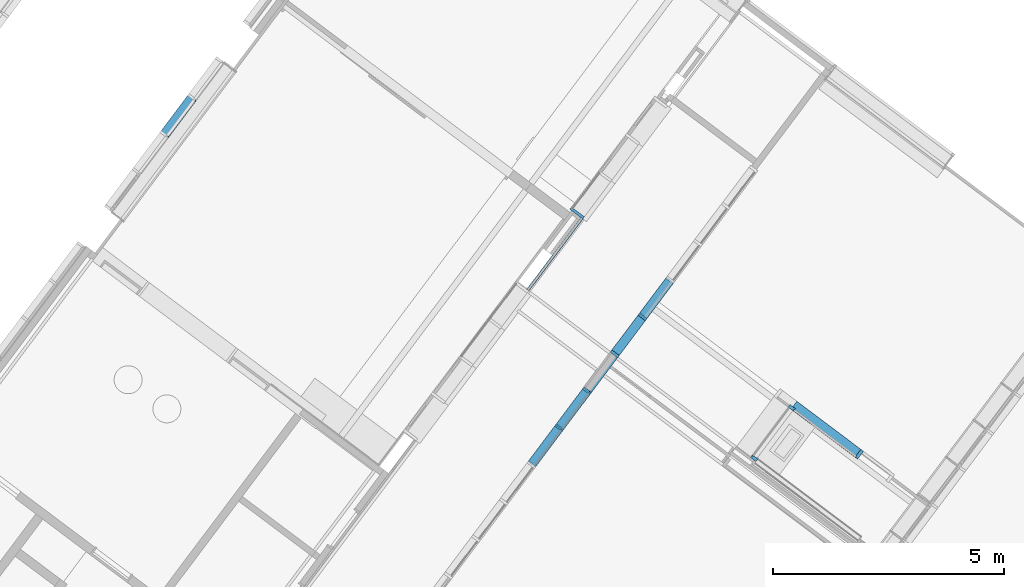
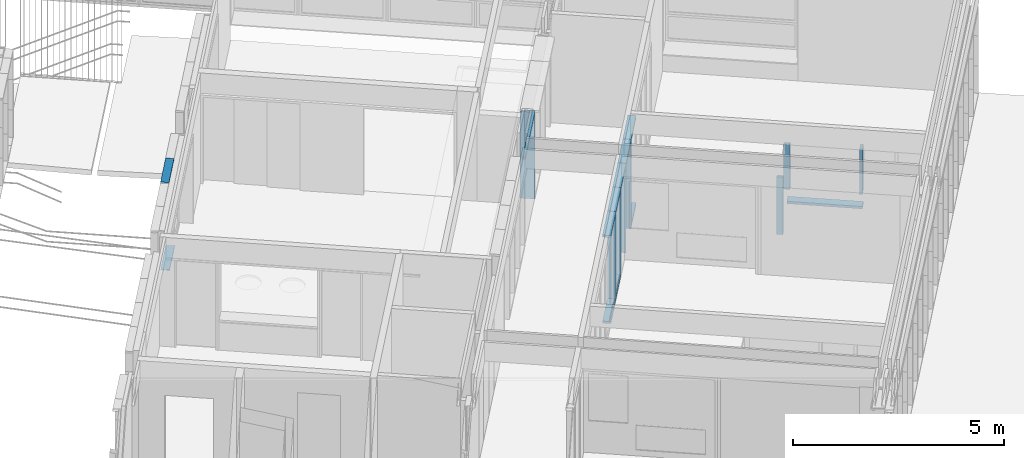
# One storey, part 28 of 243: 20 members, 6 elements without a shape of their own.
"""IFC2X3 building model written with IfcOpenShell, lengths in metres."""

from ifc_helpers import new_model, entity, si_unit, converted_unit, derived_unit, direction, frame, frame_2d, origin, place, context, subcontext, project, spatial, polyline, circle_curve, parameter, trimmed, segment, composite_curve, rectangle, outline, extrude, source, transform, mapped, material, type_object, type_shapes, element, aggregate, save


model = new_model("IFC2X3")

# Units and contexts
model_context = context("Model", 3, precision=1e-05, world=origin(), true_north=direction((6.123031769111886e-17, 1.0)))
body_context = subcontext(model_context, "Body", "Model", "MODEL_VIEW")
ifc_project = project(units=[si_unit("LENGTHUNIT", "METRE"), si_unit("AREAUNIT", "SQUARE_METRE"), si_unit("VOLUMEUNIT", "CUBIC_METRE"), converted_unit("PLANEANGLEUNIT", "DEGREE", entity("IfcRatioMeasure", 0.017453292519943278), si_unit("PLANEANGLEUNIT", "RADIAN"), dimensions=[0, 0, 0, 0, 0, 0, 0]), si_unit("MASSUNIT", "GRAM", prefix="KILO"), derived_unit("MASSDENSITYUNIT", [(si_unit("MASSUNIT", "GRAM", prefix="KILO"), 1), (si_unit("LENGTHUNIT", "METRE"), -3)]), derived_unit("IONCONCENTRATIONUNIT", [(si_unit("MASSUNIT", "GRAM", prefix="KILO"), 1), (si_unit("LENGTHUNIT", "METRE"), -3)]), derived_unit("MOMENTOFINERTIAUNIT", [(si_unit("LENGTHUNIT", "METRE"), 4)]), si_unit("TIMEUNIT", "SECOND"), si_unit("FREQUENCYUNIT", "HERTZ"), si_unit("THERMODYNAMICTEMPERATUREUNIT", "DEGREE_CELSIUS"), derived_unit("THERMALTRANSMITTANCEUNIT", [(si_unit("MASSUNIT", "GRAM", prefix="KILO"), 1), (si_unit("THERMODYNAMICTEMPERATUREUNIT", "KELVIN"), -1), (si_unit("TIMEUNIT", "SECOND"), -3)]), derived_unit("THERMALCONDUCTANCEUNIT", [(si_unit("MASSUNIT", "GRAM", prefix="KILO"), 1), (si_unit("THERMODYNAMICTEMPERATUREUNIT", "KELVIN"), -1), (si_unit("TIMEUNIT", "SECOND"), -3), (si_unit("LENGTHUNIT", "METRE"), 1)]), derived_unit("VOLUMETRICFLOWRATEUNIT", [(si_unit("LENGTHUNIT", "METRE"), 3), (si_unit("TIMEUNIT", "SECOND"), -1)]), derived_unit("MASSFLOWRATEUNIT", [(si_unit("MASSUNIT", "GRAM", prefix="KILO"), 1), (si_unit("TIMEUNIT", "SECOND"), -1)]), derived_unit("ROTATIONALFREQUENCYUNIT", [(si_unit("TIMEUNIT", "SECOND"), -1)]), si_unit("ELECTRICCURRENTUNIT", "AMPERE"), si_unit("ELECTRICVOLTAGEUNIT", "VOLT"), si_unit("POWERUNIT", "WATT"), si_unit("FORCEUNIT", "NEWTON", prefix="KILO"), si_unit("ILLUMINANCEUNIT", "LUX"), si_unit("LUMINOUSFLUXUNIT", "LUMEN"), si_unit("LUMINOUSINTENSITYUNIT", "CANDELA"), derived_unit("USERDEFINED", [(si_unit("MASSUNIT", "GRAM", prefix="KILO"), -1), (si_unit("LENGTHUNIT", "METRE"), -2), (si_unit("TIMEUNIT", "SECOND"), 3), (si_unit("LUMINOUSFLUXUNIT", "LUMEN"), 1)]), derived_unit("USERDEFINED", [(si_unit("MASSUNIT", "GRAM", prefix="KILO"), 1), (si_unit("TIMEUNIT", "SECOND"), -3), (si_unit("LENGTHUNIT", "METRE"), 3), (si_unit("ELECTRICCURRENTUNIT", "AMPERE"), -2)]), derived_unit("SOUNDPOWERUNIT", [(si_unit("MASSUNIT", "GRAM", prefix="KILO"), 1), (si_unit("TIMEUNIT", "SECOND"), -3), (si_unit("LENGTHUNIT", "METRE"), 2)]), derived_unit("SOUNDPRESSUREUNIT", [(si_unit("MASSUNIT", "GRAM", prefix="KILO"), 1), (si_unit("LENGTHUNIT", "METRE"), -1), (si_unit("TIMEUNIT", "SECOND"), -2)]), derived_unit("LINEARVELOCITYUNIT", [(si_unit("LENGTHUNIT", "METRE"), 1), (si_unit("TIMEUNIT", "SECOND"), -1)]), si_unit("PRESSUREUNIT", "PASCAL"), derived_unit("USERDEFINED", [(si_unit("MASSUNIT", "GRAM", prefix="KILO"), 1), (si_unit("LENGTHUNIT", "METRE"), -2), (si_unit("TIMEUNIT", "SECOND"), -2)]), derived_unit("LINEARFORCEUNIT", [(si_unit("MASSUNIT", "GRAM", prefix="KILO"), 1), (si_unit("TIMEUNIT", "SECOND"), -2)]), derived_unit("PLANARFORCEUNIT", [(si_unit("MASSUNIT", "GRAM", prefix="KILO"), 1), (si_unit("LENGTHUNIT", "METRE"), -1), (si_unit("TIMEUNIT", "SECOND"), -2)]), derived_unit("SPECIFICHEATCAPACITYUNIT", [(si_unit("THERMODYNAMICTEMPERATUREUNIT", "KELVIN"), -1), (si_unit("LENGTHUNIT", "METRE"), 2), (si_unit("TIMEUNIT", "SECOND"), -2)]), derived_unit("HEATINGVALUEUNIT", [(si_unit("LENGTHUNIT", "METRE"), 2), (si_unit("TIMEUNIT", "SECOND"), -2)]), derived_unit("VAPORPERMEABILITYUNIT", [(si_unit("LENGTHUNIT", "METRE"), -1), (si_unit("TIMEUNIT", "SECOND"), 1)]), derived_unit("DYNAMICVISCOSITYUNIT", [(si_unit("MASSUNIT", "GRAM", prefix="KILO"), 1), (si_unit("TIMEUNIT", "SECOND"), -1), (si_unit("LENGTHUNIT", "METRE"), -1)]), derived_unit("THERMALEXPANSIONCOEFFICIENTUNIT", [(si_unit("THERMODYNAMICTEMPERATUREUNIT", "KELVIN"), -1)]), derived_unit("MODULUSOFELASTICITYUNIT", [(si_unit("MASSUNIT", "GRAM", prefix="KILO"), 1), (si_unit("LENGTHUNIT", "METRE"), -1), (si_unit("TIMEUNIT", "SECOND"), -2)]), derived_unit("ISOTHERMALMOISTURECAPACITYUNIT", [(si_unit("LENGTHUNIT", "METRE"), 3), (si_unit("MASSUNIT", "GRAM", prefix="KILO"), -1)]), derived_unit("MOISTUREDIFFUSIVITYUNIT", [(si_unit("TIMEUNIT", "SECOND"), -1), (si_unit("LENGTHUNIT", "METRE"), 2)])], contexts=[model_context])

# Site, building, storey
site_placement = place(None, frame((0.0, 0.0, 235.0), z_axis=(0.0, 0.0, 1.0), x_axis=(-0.7996477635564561, 0.6004693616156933, 0.0)))
site = spatial("IfcSite", under=ifc_project, at=site_placement, Name="Default", CompositionType="ELEMENT")
building_placement = place(site_placement, origin())
building = spatial("IfcBuilding", under=site, at=building_placement, CompositionType="ELEMENT")
storey_placement = place(building_placement, origin())
storey = spatial("IfcBuildingStorey", under=building, at=storey_placement, Name="P0- Escola", CompositionType="ELEMENT", Elevation=0.0)

# Curtain wall, member
curtain_wall_type_1 = type_object("IfcCurtainWallType", Name="Muro cortina:MC- INT- a4", PredefinedType="NOTDEFINED")
curtain_wall_1_placement = place(storey_placement, origin())
curtain_wall_1 = element("IfcCurtainWall", 1, at=curtain_wall_1_placement, inside=storey, type_object=curtain_wall_type_1, Name="Muro cortina:MC- INT- a4", ObjectType="Muro cortina:MC- INT- a4")
ifc_material_1 = material(Name="_Fusta massisa- T1")
member_type_1 = type_object("IfcMemberType", Name="Montante rectangular:MC- Fusta- 35x6 cm- Esquerra", PredefinedType="MULLION", material=ifc_material_1)
shared_shape_1 = source(origin(), body_context, "Body", "SweptSolid", [
    extrude(outline(polyline([(-0.10750000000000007, -0.01875000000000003), (-0.07750000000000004, -0.01875000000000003), (-0.07749999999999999, -0.0037500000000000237), (-0.05750000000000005, -0.0037500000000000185), (-0.057500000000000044, -0.01875000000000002), (0.24250000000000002, -0.018749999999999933), (0.24250000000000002, 0.041250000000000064), (-0.10749999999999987, 0.04124999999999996), (-0.10750000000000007, -0.01875000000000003)])), frame((-0.041249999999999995, -0.0675, -2.5050000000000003), z_axis=(0.0, 0.0, 1.0), x_axis=(0.0, -1.0, 0.0)), (0.0, 0.0, 1.0), 2.5050000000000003),
])
type_shapes(member_type_1, [shared_shape_1])
member_1_placement = place(curtain_wall_1_placement, frame((15.955147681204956, -36.38769175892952, 0.0), z_axis=(0.0, 0.0, -1.0), x_axis=(0.0, 1.0, 0.0)))
member_1 = element("IfcMember", 2, at=member_1_placement, type_object=member_type_1, material=ifc_material_1, Name="Montante rectangular:MC- Fusta- 35x6 cm- Esquerra", ObjectType="Montante rectangular:MC- Fusta- 35x6 cm- Esquerra", context=body_context, shape_type="MappedRepresentation", body=[
    mapped(shared_shape_1, transform((0.0, 0.0, 0.0), scale=1.0)),
])
aggregate(curtain_wall_1, [member_1])

# Curtain wall, members
curtain_wall_type_2 = type_object("IfcCurtainWallType", Name="Muro cortina:MC- INT- a3", PredefinedType="NOTDEFINED")
curtain_wall_2_placement = place(storey_placement, origin())
curtain_wall_2 = element("IfcCurtainWall", 3, at=curtain_wall_2_placement, inside=storey, type_object=curtain_wall_type_2, Name="Muro cortina:MC- INT- a3", ObjectType="Muro cortina:MC- INT- a3")
member_type_2 = type_object("IfcMemberType", Name="Montante rectangular:MC- Fusta- 20x6 cm- Centre", PredefinedType="MULLION", material=ifc_material_1)
shared_shape_2 = source(origin(), body_context, "Body", "SweptSolid", [
    extrude(outline(polyline([(-0.14, -0.03), (0.009999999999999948, -0.03), (0.009999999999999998, -0.014999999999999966), (0.030000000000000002, -0.015), (0.030000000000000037, -0.030000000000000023), (0.060000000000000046, -0.029999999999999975), (0.059999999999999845, 0.030000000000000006), (0.030000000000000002, 0.029999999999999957), (0.030000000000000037, 0.015), (0.010000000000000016, 0.015), (0.010000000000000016, 0.03), (-0.14, 0.03), (-0.14, -0.03)])), frame((0.0, 0.019999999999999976, -2.505000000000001), z_axis=(0.0, 0.0, 1.0), x_axis=(0.0, -1.0, 0.0)), (0.0, 0.0, 1.0), 2.5050000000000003),
])
type_shapes(member_type_2, [shared_shape_2])
member_2_placement = place(curtain_wall_2_placement, frame((13.279147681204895, -32.47019175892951, 0.0), z_axis=(0.0, 0.0, -1.0), x_axis=(0.0, 1.0, 0.0)))
member_2 = element("IfcMember", 4, at=member_2_placement, type_object=member_type_2, material=ifc_material_1, Name="Montante rectangular:MC- Fusta- 20x6 cm- Centre", ObjectType="Montante rectangular:MC- Fusta- 20x6 cm- Centre", context=body_context, shape_type="MappedRepresentation", body=[
    mapped(shared_shape_2, transform((0.0, 0.0, 0.0), scale=1.0)),
])
member_3_placement = place(curtain_wall_2_placement, frame((13.279147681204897, -33.47019175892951, 0.0), z_axis=(0.0, 0.0, -1.0), x_axis=(0.0, 1.0, 0.0)))
member_3 = element("IfcMember", 5, at=member_3_placement, type_object=member_type_2, material=ifc_material_1, Name="Montante rectangular:MC- Fusta- 20x6 cm- Centre", ObjectType="Montante rectangular:MC- Fusta- 20x6 cm- Centre", context=body_context, shape_type="MappedRepresentation", body=[
    mapped(shared_shape_2, transform((0.0, 0.0, 0.0), scale=1.0)),
])
member_type_3 = type_object("IfcMemberType", Name="Montante rectangular:MC- Fusta- 20x6 cm- Esquerra", PredefinedType="MULLION", material=ifc_material_1)
shared_shape_3 = source(origin(), body_context, "Body", "SweptSolid", [
    extrude(outline(polyline([(-0.12999999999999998, -0.018750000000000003), (0.019999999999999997, -0.018750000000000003), (0.019999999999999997, -0.003750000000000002), (0.04000000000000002, -0.003750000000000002), (0.04000000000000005, -0.01875000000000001), (0.07000000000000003, -0.018750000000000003), (0.06999999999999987, 0.041249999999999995), (-0.12999999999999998, 0.041249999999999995), (-0.12999999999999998, -0.018750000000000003)])), frame((-0.041249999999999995, 0.029999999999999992, -1.0), z_axis=(0.0, 0.0, 1.0), x_axis=(0.0, -1.0, 0.0)), (0.0, 0.0, 1.0), 0.9999999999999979),
])
type_shapes(member_type_3, [shared_shape_3])
member_4_placement = place(curtain_wall_2_placement, frame((13.279147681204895, -32.47019175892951, 2.565), z_axis=(0.0, 1.0, 0.0), x_axis=(0.0, 0.0, 1.0)))
member_4 = element("IfcMember", 6, at=member_4_placement, type_object=member_type_3, material=ifc_material_1, Name="Montante rectangular:MC- Fusta- 20x6 cm- Esquerra", ObjectType="Montante rectangular:MC- Fusta- 20x6 cm- Esquerra", context=body_context, shape_type="MappedRepresentation", body=[
    mapped(shared_shape_3, transform((0.0, 0.0, 0.0), scale=1.0)),
])
member_5_placement = place(curtain_wall_2_placement, frame((13.279147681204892, -31.470191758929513, 2.565), z_axis=(0.0, 1.0, 0.0), x_axis=(0.0, 0.0, 1.0)))
member_5 = element("IfcMember", 7, at=member_5_placement, type_object=member_type_3, material=ifc_material_1, Name="Montante rectangular:MC- Fusta- 20x6 cm- Esquerra", ObjectType="Montante rectangular:MC- Fusta- 20x6 cm- Esquerra", context=body_context, shape_type="MappedRepresentation", body=[
    mapped(shared_shape_3, transform((0.0, 0.0, 0.0), scale=1.0)),
])
member_type_4 = type_object("IfcMemberType", Name="Montante rectangular:MC- Fusta- 20x6 cm- Esquerra", PredefinedType="MULLION", material=ifc_material_1)
shared_shape_4 = source(origin(), body_context, "Body", "SweptSolid", [
    extrude(outline(polyline([(-0.13000000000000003, -0.018750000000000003), (0.020000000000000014, -0.018750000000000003), (0.020000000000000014, -0.003750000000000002), (0.040000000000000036, -0.003750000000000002), (0.04000000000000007, -0.01875000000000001), (0.07000000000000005, -0.018750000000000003), (0.06999999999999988, 0.041249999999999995), (-0.13000000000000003, 0.041249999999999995), (-0.13000000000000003, -0.018750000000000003)])), frame((-0.041249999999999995, 0.030000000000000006, -1.0), z_axis=(0.0, 0.0, 1.0), x_axis=(0.0, -1.0, 0.0)), (0.0, 0.0, 1.0), 0.9999999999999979),
])
type_shapes(member_type_4, [shared_shape_4])
member_6_placement = place(curtain_wall_2_placement, frame((13.279147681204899, -35.47019175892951, 2.565), z_axis=(0.0, 1.0, 0.0), x_axis=(0.0, 0.0, 1.0)))
member_6 = element("IfcMember", 8, at=member_6_placement, type_object=member_type_4, material=ifc_material_1, Name="Montante rectangular:MC- Fusta- 20x6 cm- Esquerra", ObjectType="Montante rectangular:MC- Fusta- 20x6 cm- Esquerra", context=body_context, shape_type="MappedRepresentation", body=[
    mapped(shared_shape_4, transform((0.0, 0.0, 0.0), scale=1.0)),
])
member_type_5 = type_object("IfcMemberType", Name="Montante rectangular:MC- Fusta- 20x6 cm- Neutre", PredefinedType="MULLION", material=ifc_material_1)
shared_shape_5 = source(origin(), body_context, "Body", "SweptSolid", [
    extrude(rectangle(XDim=0.2, YDim=0.06, at=frame_2d((-5.551115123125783e-17, 0.0), x_axis=(1.0, 0.0))), frame((0.0, 0.060000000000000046, -2.5050000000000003), z_axis=(0.0, 0.0, 1.0), x_axis=(0.0, -1.0, 0.0)), (0.0, 0.0, 1.0), 2.5050000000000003),
])
type_shapes(member_type_5, [shared_shape_5])
member_7_placement = place(curtain_wall_2_placement, frame((13.279147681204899, -35.47019175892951, 0.0), z_axis=(0.0, 0.0, -1.0), x_axis=(0.0, 1.0, 0.0)))
member_7 = element("IfcMember", 9, at=member_7_placement, type_object=member_type_5, material=ifc_material_1, Name="Montante rectangular:MC- Fusta- 20x6 cm- Neutre", ObjectType="Montante rectangular:MC- Fusta- 20x6 cm- Neutre", context=body_context, shape_type="MappedRepresentation", body=[
    mapped(shared_shape_5, transform((0.0, 0.0, 0.0), scale=1.0)),
])
member_type_6 = type_object("IfcMemberType", Name="Montante rectangular:MC- Fusta- 20x6 cm- Esquerra", PredefinedType="MULLION", material=ifc_material_1)
shared_shape_6 = source(origin(), body_context, "Body", "SweptSolid", [
    extrude(outline(polyline([(-0.13, -0.018750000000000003), (0.02, -0.018750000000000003), (0.02, -0.003750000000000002), (0.04000000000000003, -0.003750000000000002), (0.04000000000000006, -0.01875000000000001), (0.07000000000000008, -0.018750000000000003), (0.06999999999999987, 0.041249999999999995), (-0.13, 0.041249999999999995), (-0.13, -0.018750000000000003)])), frame((-0.041249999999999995, 0.029999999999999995, -1.0), z_axis=(0.0, 0.0, 1.0), x_axis=(0.0, -1.0, 0.0)), (0.0, 0.0, 1.0), 0.9999999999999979),
])
type_shapes(member_type_6, [shared_shape_6])
member_8_placement = place(curtain_wall_2_placement, frame((13.279147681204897, -33.47019175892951, 2.565), z_axis=(0.0, 1.0, 0.0), x_axis=(0.0, 0.0, 1.0)))
member_8 = element("IfcMember", 10, at=member_8_placement, type_object=member_type_6, material=ifc_material_1, Name="Montante rectangular:MC- Fusta- 20x6 cm- Esquerra", ObjectType="Montante rectangular:MC- Fusta- 20x6 cm- Esquerra", context=body_context, shape_type="MappedRepresentation", body=[
    mapped(shared_shape_6, transform((0.0, 0.0, 0.0), scale=1.0)),
])
member_type_7 = type_object("IfcMemberType", Name="Montante rectangular:MC- Fusta- 20x6 cm- Neutre", PredefinedType="MULLION", material=ifc_material_1)
shared_shape_7 = source(origin(), body_context, "Body", "SweptSolid", [
    extrude(rectangle(XDim=0.20000000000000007, YDim=0.06, at=frame_2d((-5.551115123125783e-17, 0.0), x_axis=(1.0, 0.0))), frame((-0.03, 0.06000000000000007, -1.0), z_axis=(0.0, 0.0, 1.0), x_axis=(0.0, -1.0, 0.0)), (0.0, 0.0, 1.0), 0.9999999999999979),
])
type_shapes(member_type_7, [shared_shape_7])
member_9_placement = place(curtain_wall_2_placement, frame((13.279147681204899, -34.47019175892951, 2.565), z_axis=(0.0, 1.0, 0.0), x_axis=(0.0, 0.0, 1.0)))
member_9 = element("IfcMember", 11, at=member_9_placement, type_object=member_type_7, material=ifc_material_1, Name="Montante rectangular:MC- Fusta- 20x6 cm- Neutre", ObjectType="Montante rectangular:MC- Fusta- 20x6 cm- Neutre", context=body_context, shape_type="MappedRepresentation", body=[
    mapped(shared_shape_7, transform((0.0, 0.0, 0.0), scale=1.0)),
])
member_type_8 = type_object("IfcMemberType", Name="Montante rectangular:MC- Fusta- 20x6 cm- Neutre", PredefinedType="MULLION", material=ifc_material_1)
shared_shape_8 = source(origin(), body_context, "Body", "SweptSolid", [
    extrude(rectangle(XDim=0.2, YDim=0.06, at=frame_2d((-5.551115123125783e-17, 0.0), x_axis=(1.0, 0.0))), frame((0.0, 0.060000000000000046, -2.5050000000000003), z_axis=(0.0, 0.0, 1.0), x_axis=(0.0, -1.0, 0.0)), (0.0, 0.0, 1.0), 2.5050000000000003),
])
type_shapes(member_type_8, [shared_shape_8])
member_10_placement = place(curtain_wall_2_placement, frame((13.279147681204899, -34.47019175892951, 0.0), z_axis=(0.0, 0.0, -1.0), x_axis=(0.0, 1.0, 0.0)))
member_10 = element("IfcMember", 12, at=member_10_placement, type_object=member_type_8, material=ifc_material_1, Name="Montante rectangular:MC- Fusta- 20x6 cm- Neutre", ObjectType="Montante rectangular:MC- Fusta- 20x6 cm- Neutre", context=body_context, shape_type="MappedRepresentation", body=[
    mapped(shared_shape_8, transform((0.0, 0.0, 0.0), scale=1.0)),
])
member_type_9 = type_object("IfcMemberType", Name="Montante rectangular:MC- Fusta- 20x6 cm- Inferior", PredefinedType="MULLION", material=ifc_material_1)
shared_shape_9 = source(origin(), body_context, "Body", "SweptSolid", [
    extrude(outline(polyline([(-0.12999999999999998, -0.018750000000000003), (0.01999999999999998, -0.018750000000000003), (0.01999999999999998, -0.0037500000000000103), (0.04, -0.0037500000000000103), (0.039999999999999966, -0.018750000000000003), (0.06999999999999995, -0.018750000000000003), (0.07000000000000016, 0.041249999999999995), (-0.12999999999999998, 0.041249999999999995), (-0.12999999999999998, -0.018750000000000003)])), frame((-0.041249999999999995, 0.029999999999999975, -0.9399999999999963), z_axis=(0.0, 0.0, 1.0), x_axis=(0.0, -1.0, 0.0)), (0.0, 0.0, 1.0), 0.9399999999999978),
])
type_shapes(member_type_9, [shared_shape_9])
member_11_placement = place(curtain_wall_2_placement, frame((13.279147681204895, -32.44019175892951, 0.0), z_axis=(0.0, -1.0, 0.0), x_axis=(0.0, 0.0, -1.0)))
member_11 = element("IfcMember", 13, at=member_11_placement, type_object=member_type_9, material=ifc_material_1, Name="Montante rectangular:MC- Fusta- 20x6 cm- Inferior", ObjectType="Montante rectangular:MC- Fusta- 20x6 cm- Inferior", context=body_context, shape_type="MappedRepresentation", body=[
    mapped(shared_shape_9, transform((0.0, 0.0, 0.0), scale=1.0)),
])
member_12_placement = place(curtain_wall_2_placement, frame((13.279147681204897, -33.44019175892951, 0.0), z_axis=(0.0, -1.0, 0.0), x_axis=(0.0, 0.0, -1.0)))
member_12 = element("IfcMember", 14, at=member_12_placement, type_object=member_type_9, material=ifc_material_1, Name="Montante rectangular:MC- Fusta- 20x6 cm- Inferior", ObjectType="Montante rectangular:MC- Fusta- 20x6 cm- Inferior", context=body_context, shape_type="MappedRepresentation", body=[
    mapped(shared_shape_9, transform((0.0, 0.0, 0.0), scale=1.0)),
])
member_type_10 = type_object("IfcMemberType", Name="Montante rectangular:MC- Fusta- 20x6 cm- Neutre", PredefinedType="MULLION", material=ifc_material_1)
shared_shape_10 = source(origin(), body_context, "Body", "SweptSolid", [
    extrude(rectangle(XDim=0.19999999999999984, YDim=0.06, at=frame_2d((4.85722573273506e-17, 0.0), x_axis=(1.0, 0.0))), frame((-0.03, 0.06000000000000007, -0.9399999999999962), z_axis=(0.0, 0.0, 1.0), x_axis=(0.0, -1.0, 0.0)), (0.0, 0.0, 1.0), 0.9399999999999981),
])
type_shapes(member_type_10, [shared_shape_10])
member_13_placement = place(curtain_wall_2_placement, frame((13.2791476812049, -36.4401917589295, 0.0), z_axis=(0.0, -1.0, 0.0), x_axis=(0.0, 0.0, -1.0)))
member_13 = element("IfcMember", 15, at=member_13_placement, type_object=member_type_10, material=ifc_material_1, Name="Montante rectangular:MC- Fusta- 20x6 cm- Neutre", ObjectType="Montante rectangular:MC- Fusta- 20x6 cm- Neutre", context=body_context, shape_type="MappedRepresentation", body=[
    mapped(shared_shape_10, transform((0.0, 0.0, 0.0), scale=1.0)),
])
aggregate(curtain_wall_2, [member_6, member_7, member_4, member_2, member_8, member_3, member_9, member_10, member_5, member_13, member_11, member_12])

# Curtain wall, member
curtain_wall_type_3 = type_object("IfcCurtainWallType", Name="Muro cortina:MC- INT- a4- 5cm", PredefinedType="NOTDEFINED")
curtain_wall_3_placement = place(storey_placement, origin())
curtain_wall_3 = element("IfcCurtainWall", 16, at=curtain_wall_3_placement, inside=storey, type_object=curtain_wall_type_3, Name="Muro cortina:MC- INT- a4- 5cm", ObjectType="Muro cortina:MC- INT- a4- 5cm")
member_type_11 = type_object("IfcMemberType", Name="Montante rectangular:MC- Fusta- 15x6 cm- Neutre", PredefinedType="MULLION", material=ifc_material_1)
shared_shape_11 = source(origin(), body_context, "Body", "SweptSolid", [
    extrude(rectangle(XDim=0.06499999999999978, YDim=0.05999999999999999, at=frame_2d((4.85722573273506e-17, 0.0), x_axis=(1.0, 0.0))), frame((-0.02999999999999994, 0.0, -1.9450009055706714), z_axis=(0.0, 0.0, 1.0), x_axis=(0.0, -1.0, 0.0)), (0.0, 0.0, 1.0), 1.9450009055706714),
])
type_shapes(member_type_11, [shared_shape_11])
member_14_placement = place(curtain_wall_3_placement, frame((15.67014768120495, -36.38769175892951, 2.565), z_axis=(0.0, -1.0, 0.0), x_axis=(0.0, 0.0, 1.0)))
member_14 = element("IfcMember", 17, at=member_14_placement, type_object=member_type_11, material=ifc_material_1, Name="Montante rectangular:MC- Fusta- 15x6 cm- Neutre", ObjectType="Montante rectangular:MC- Fusta- 15x6 cm- Neutre", context=body_context, shape_type="MappedRepresentation", body=[
    mapped(shared_shape_11, transform((0.0, 0.0, 0.0), scale=1.0)),
])
aggregate(curtain_wall_3, [member_14])

# Curtain wall, members
curtain_wall_type_4 = type_object("IfcCurtainWallType", Name="Muro cortina:MC- INT- k1", PredefinedType="NOTDEFINED")
curtain_wall_4_placement = place(storey_placement, origin())
curtain_wall_4 = element("IfcCurtainWall", 18, at=curtain_wall_4_placement, inside=storey, type_object=curtain_wall_type_4, Name="Muro cortina:MC- INT- k1", ObjectType="Muro cortina:MC- INT- k1")
member_type_12 = type_object("IfcMemberType", Name="Montante rectangular:MC- Fusta- 21,4x7 cm- Neutre- Bany infantil", PredefinedType="MULLION", material=ifc_material_1)
shared_shape_12 = source(origin(), body_context, "Body", "SweptSolid", [
    extrude(rectangle(XDim=0.21400000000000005, YDim=0.06999999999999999, at=frame_2d((-5.551115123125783e-17, 0.0), x_axis=(1.0, 0.0))), frame((0.0, -0.08099999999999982, -1.8010000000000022), z_axis=(0.0, 0.0, 1.0), x_axis=(0.0, -1.0, 0.0)), (0.0, 0.0, 1.0), 1.8010000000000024),
])
type_shapes(member_type_12, [shared_shape_12])
member_15_placement = place(curtain_wall_4_placement, frame((7.769147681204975, -35.827191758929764, 0.8199999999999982), z_axis=(-1.0, 0.0, 0.0), x_axis=(0.0, 0.0, 1.0)))
member_15 = element("IfcMember", 19, at=member_15_placement, type_object=member_type_12, material=ifc_material_1, Name="Montante rectangular:MC- Fusta- 21,4x7 cm- Neutre- Bany infantil", ObjectType="Montante rectangular:MC- Fusta- 21,4x7 cm- Neutre- Bany infantil", context=body_context, shape_type="MappedRepresentation", body=[
    mapped(shared_shape_12, transform((0.0, 0.0, 0.0), scale=1.0)),
])
member_type_13 = type_object("IfcMemberType", Name="Montante rectangular:PerfilBany-Dreta", PredefinedType="MULLION", material=ifc_material_1)
shared_shape_13 = source(origin(), body_context, "Body", "SweptSolid", [
    extrude(outline(polyline([(-0.03050000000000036, -0.1075), (0.0394999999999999, -0.1075), (0.0394999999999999, 0.04250000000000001), (0.0055000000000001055, 0.04250000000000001), (0.0055000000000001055, 0.022500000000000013), (-0.014499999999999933, 0.022500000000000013), (-0.014499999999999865, 0.04249999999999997), (-0.030499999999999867, 0.04249999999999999), (-0.03050000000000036, -0.1075)])), frame((0.03250000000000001, -0.0045000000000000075, -1.304999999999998), z_axis=(0.0, 0.0, 1.0), x_axis=(0.0, -1.0, 0.0)), (0.0, 0.0, 1.0), 1.304999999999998),
])
type_shapes(member_type_13, [shared_shape_13])
member_16_placement = place(curtain_wall_4_placement, frame((9.570147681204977, -35.82719175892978, 1.2000000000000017), z_axis=(0.0, 0.0, -1.0), x_axis=(-1.0, 0.0, 0.0)))
member_16 = element("IfcMember", 20, at=member_16_placement, type_object=member_type_13, material=ifc_material_1, Name="Montante rectangular:PerfilBany-Dreta", ObjectType="Montante rectangular:PerfilBany-Dreta", context=body_context, shape_type="MappedRepresentation", body=[
    mapped(shared_shape_13, transform((0.0, 0.0, 0.0), scale=1.0)),
])
member_type_14 = type_object("IfcMemberType", Name="Montante rectangular:MC- Fusta- 21,4x7 cm- Esquerra- Bany infantil", PredefinedType="MULLION", material=ifc_material_1)
shared_shape_14 = source(origin(), body_context, "Body", "SweptSolid", [
    extrude(outline(polyline([(-0.06649999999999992, -0.02249999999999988), (-0.05049999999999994, -0.02249999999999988), (-0.050499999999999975, -0.0024999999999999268), (-0.030499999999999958, -0.002499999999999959), (-0.030499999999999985, -0.022499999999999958), (0.14749999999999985, -0.022500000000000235), (0.14749999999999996, 0.04749999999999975), (-0.06650000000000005, 0.04750000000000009), (-0.06649999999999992, -0.02249999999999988)])), frame((-0.012500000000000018, -0.04049999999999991, -1.304999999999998), z_axis=(0.0, 0.0, 1.0), x_axis=(0.0, -1.0, 0.0)), (0.0, 0.0, 1.0), 1.304999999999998),
])
type_shapes(member_type_14, [shared_shape_14])
member_17_placement = place(curtain_wall_4_placement, frame((7.804147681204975, -35.827191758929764, 1.2000000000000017), z_axis=(0.0, 0.0, -1.0), x_axis=(-1.0, 0.0, 0.0)))
member_17 = element("IfcMember", 21, at=member_17_placement, type_object=member_type_14, material=ifc_material_1, Name="Montante rectangular:MC- Fusta- 21,4x7 cm- Esquerra- Bany infantil", ObjectType="Montante rectangular:MC- Fusta- 21,4x7 cm- Esquerra- Bany infantil", context=body_context, shape_type="MappedRepresentation", body=[
    mapped(shared_shape_14, transform((0.0, 0.0, 0.0), scale=1.0)),
])
aggregate(curtain_wall_4, [member_15, member_16, member_17])

# Curtain wall, member
curtain_wall_type_5 = type_object("IfcCurtainWallType", Name="Muro cortina:MC- INT- k1", PredefinedType="NOTDEFINED")
curtain_wall_5_placement = place(storey_placement, origin())
curtain_wall_5 = element("IfcCurtainWall", 22, at=curtain_wall_5_placement, inside=storey, type_object=curtain_wall_type_5, Name="Muro cortina:MC- INT- k1", ObjectType="Muro cortina:MC- INT- k1")
member_type_15 = type_object("IfcMemberType", Name="Montante rectangular:MC- Fusta- 15x7- Esquerra", PredefinedType="MULLION", material=ifc_material_1)
shared_shape_15 = source(origin(), body_context, "Body", "SweptSolid", [
    extrude(outline(polyline([(-0.050499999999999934, -0.0224999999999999), (-0.034499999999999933, -0.0224999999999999), (-0.03449999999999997, -0.0024999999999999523), (-0.014499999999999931, -0.0024999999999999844), (-0.014499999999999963, -0.022499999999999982), (0.09949999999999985, -0.02250000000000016), (0.09949999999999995, 0.04749999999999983), (-0.05050000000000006, 0.04750000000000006), (-0.050499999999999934, -0.0224999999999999)])), frame((-0.04749999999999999, -0.024499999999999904, -1.665), z_axis=(0.0, 0.0, 1.0), x_axis=(0.0, -1.0, 0.0)), (0.0, 0.0, 1.0), 1.6649999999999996),
])
type_shapes(member_type_15, [shared_shape_15])
member_18_placement = place(curtain_wall_5_placement, frame((9.619147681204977, -34.440191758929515, 0.8399999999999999), z_axis=(0.0, 0.0, -1.0), x_axis=(0.0, 1.0, 0.0)))
member_18 = element("IfcMember", 23, at=member_18_placement, type_object=member_type_15, material=ifc_material_1, Name="Montante rectangular:MC- Fusta- 15x7- Esquerra", ObjectType="Montante rectangular:MC- Fusta- 15x7- Esquerra", context=body_context, shape_type="MappedRepresentation", body=[
    mapped(shared_shape_15, transform((0.0, 0.0, 0.0), scale=1.0)),
])
aggregate(curtain_wall_5, [member_18])

# Curtain wall, members
curtain_wall_type_6 = type_object("IfcCurtainWallType", Name="Muro cortina:MC- EXT- MC2", PredefinedType="NOTDEFINED")
curtain_wall_6_placement = place(storey_placement, origin())
curtain_wall_6 = element("IfcCurtainWall", 24, at=curtain_wall_6_placement, inside=storey, type_object=curtain_wall_type_6, Name="Muro cortina:MC- EXT- MC2", ObjectType="Muro cortina:MC- EXT- MC2")
ifc_material_2 = material(Name="_Alumini- T1- Perfil")
member_type_16 = type_object("IfcMemberType", Name="Montante rectangular:MC- Alu- 140x52,5 cm- Fa patis- Superior", PredefinedType="MULLION", material=ifc_material_2)
shared_shape_16 = source(origin(), body_context, "Body", "SweptSolid", [
    extrude(outline(polyline([(-0.026333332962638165, -0.021249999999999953), (0.11366666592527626, -0.021249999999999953), (0.11366666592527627, 0.031250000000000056), (-0.08733333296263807, 0.03125000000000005), (-0.0873333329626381, -0.010000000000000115), (-0.026333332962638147, -0.010000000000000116), (-0.026333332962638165, -0.021249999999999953)])), frame((-0.031250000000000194, -0.02733333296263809, -1.0), z_axis=(0.0, 0.0, 1.0), x_axis=(0.0, -1.0, 0.0)), (0.0, 0.0, 1.0), 1.0000000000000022),
])
type_shapes(member_type_16, [shared_shape_16])
member_19_placement = place(curtain_wall_6_placement, frame((23.945147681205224, -33.41519175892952, 2.545), z_axis=(0.0, -1.0, 0.0), x_axis=(0.0, 0.0, 1.0)))
member_19 = element("IfcMember", 25, at=member_19_placement, type_object=member_type_16, material=ifc_material_2, Name="Montante rectangular:MC- Alu- 140x52,5 cm- Fa patis- Superior", ObjectType="Montante rectangular:MC- Alu- 140x52,5 cm- Fa patis- Superior", context=body_context, shape_type="MappedRepresentation", body=[
    mapped(shared_shape_16, transform((0.0, 0.0, 0.0), scale=1.0)),
])
member_type_17 = type_object("IfcMemberType", Name="Montante rectangular:MC- Alu- 140x52,5 cm- Fa patis- inferior", PredefinedType="MULLION", material=ifc_material_2)
shared_shape_17 = source(origin(), body_context, "Body", "SweptSolid", [
    extrude(outline(composite_curve([segment(polyline([(-0.144167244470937, -0.02586710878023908), (-0.12786724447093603, -0.025867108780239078)]), True, "CONTINUOUS"), segment(polyline([(-0.12786724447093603, -0.025867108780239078), (-0.12786724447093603, -0.023167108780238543)]), True, "CONTINUOUS"), segment(polyline([(-0.12786724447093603, -0.023167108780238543), (-0.0678672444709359, -0.023167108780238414)]), True, "CONTINUOUS"), segment(polyline([(-0.0678672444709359, -0.023167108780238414), (0.07031215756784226, -0.01072210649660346)]), True, "CONTINUOUS"), segment(trimmed(circle_curve(frame_2d((0.07013275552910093, -0.00873016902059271), x_axis=(0.0897010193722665, -0.9959687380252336)), 0.0019999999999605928), [parameter(0.0)], [parameter(84.85359280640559)], True, "PARAMETER"), True, "CONTINUOUS"), segment(polyline([(0.07213275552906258, -0.008730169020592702), (0.07213275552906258, 0.006266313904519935)]), True, "CONTINUOUS"), segment(trimmed(circle_curve(frame_2d((0.070132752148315, 0.0062663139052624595), x_axis=(1.0, 0.0)), 0.0020000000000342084), [parameter(0.0)], [parameter(90.00000002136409)], True, "PARAMETER"), True, "CONTINUOUS"), segment(polyline([(0.070132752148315, 0.008266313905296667), (0.06213275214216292, 0.008266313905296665)]), True, "CONTINUOUS"), segment(polyline([(0.06213275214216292, 0.008266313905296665), (0.06213275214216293, 0.006266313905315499)]), True, "CONTINUOUS"), segment(polyline([(0.06213275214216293, 0.006266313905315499), (0.06963275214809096, 0.006266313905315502)]), True, "CONTINUOUS"), segment(trimmed(circle_curve(frame_2d((0.06963275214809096, 0.005766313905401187), x_axis=(0.0, 1.0)), 0.000499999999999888), [parameter(269.9999999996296)], [parameter(0.0)], True, "PARAMETER"), False, "CONTINUOUS"), segment(polyline([(0.07013275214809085, 0.005766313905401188), (0.07013275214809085, -0.0087301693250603)]), True, "CONTINUOUS"), segment(polyline([(0.07013275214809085, -0.0087301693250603), (0.03213275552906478, -0.01215260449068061)]), True, "CONTINUOUS"), segment(polyline([(0.03213275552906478, -0.012152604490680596), (0.03213275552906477, 0.02913289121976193)]), True, "CONTINUOUS"), segment(polyline([(0.03213275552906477, 0.02913289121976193), (0.0021327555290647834, 0.029132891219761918)]), True, "CONTINUOUS"), segment(polyline([(0.0021327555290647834, 0.029132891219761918), (0.0021327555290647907, 0.027132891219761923)]), True, "CONTINUOUS"), segment(polyline([(0.0021327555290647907, 0.027132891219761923), (0.03013275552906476, 0.027132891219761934)]), True, "CONTINUOUS"), segment(polyline([(0.03013275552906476, 0.027132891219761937), (0.03013275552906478, -0.012332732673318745)]), True, "CONTINUOUS"), segment(polyline([(0.03013275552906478, -0.012332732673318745), (-0.06786724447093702, -0.02115901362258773)]), True, "CONTINUOUS"), segment(polyline([(-0.06786724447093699, -0.021159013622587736), (-0.067867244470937, 0.009132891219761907)]), True, "CONTINUOUS"), segment(polyline([(-0.06786724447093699, 0.009132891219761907), (-0.14416724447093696, 0.00913289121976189)]), True, "CONTINUOUS"), segment(polyline([(-0.14416724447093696, 0.00913289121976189), (-0.144167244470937, -0.02586710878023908)]), True, "CONTINUOUS")], self_intersect=False)), frame((-0.02913289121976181, -0.06786724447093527, -1.0), z_axis=(0.0, 0.0, 1.0), x_axis=(0.0, -1.0, 0.0)), (0.0, 0.0, 1.0), 0.9999999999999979),
])
type_shapes(member_type_17, [shared_shape_17])
member_20_placement = place(curtain_wall_6_placement, frame((23.945147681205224, -32.41519175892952, -0.02), z_axis=(0.0, 1.0, 0.0), x_axis=(0.0, 0.0, -1.0)))
member_20 = element("IfcMember", 26, at=member_20_placement, type_object=member_type_17, material=ifc_material_2, Name="Montante rectangular:MC- Alu- 140x52,5 cm- Fa patis- inferior", ObjectType="Montante rectangular:MC- Alu- 140x52,5 cm- Fa patis- inferior", context=body_context, shape_type="MappedRepresentation", body=[
    mapped(shared_shape_17, transform((0.0, 0.0, 0.0), scale=1.0)),
])
aggregate(curtain_wall_6, [member_20, member_19])

save(model, "model.ifc")
